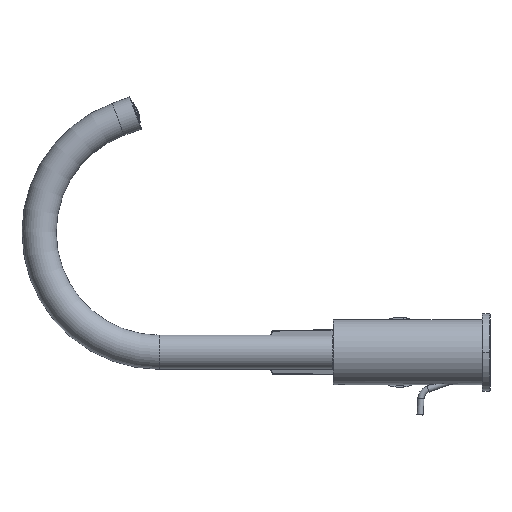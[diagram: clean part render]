
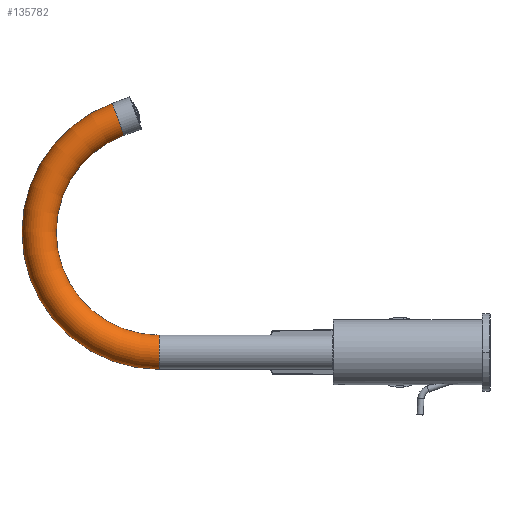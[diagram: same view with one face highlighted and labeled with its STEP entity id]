
A CAD part, left-side view. The second image highlights one B-rep face of the part: STEP entity #135782.
In plain terms, the highlighted toroidal (fillet/blend) face has major radius 77.278 mm and minor radius 11 mm.
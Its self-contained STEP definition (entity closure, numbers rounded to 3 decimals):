
#47873=CARTESIAN_POINT('',(0.,234.276,149.896));
#47874=DIRECTION('',(0.,-0.94,0.342));
#47875=DIRECTION('',(0.,0.342,0.94));
#47876=AXIS2_PLACEMENT_3D('',#47873,#47874,#47875);
#47901=CARTESIAN_POINT('',(0.,207.846,77.278));
#47902=DIRECTION('',(1.,0.,0.));
#47903=DIRECTION('',(0.,0.,-1.));
#47904=AXIS2_PLACEMENT_3D('',#47901,#47902,#47903);
#73612=CARTESIAN_POINT('',(0.,207.846,0.));
#73613=DIRECTION('',(0.,1.,0.));
#73614=DIRECTION('',(0.,0.,-1.));
#73615=AXIS2_PLACEMENT_3D('',#73612,#73613,#73614);
#73617=CARTESIAN_POINT('',(0.,207.846,77.278));
#73618=DIRECTION('',(1.,0.,0.));
#73619=DIRECTION('',(0.,0.,-1.));
#73620=AXIS2_PLACEMENT_3D('',#73617,#73618,#73619);
#94727=CARTESIAN_POINT('',(0.,207.846,-11.));
#94728=CARTESIAN_POINT('',(0.,207.846,11.));
#94729=VERTEX_POINT('',#94727);
#94730=VERTEX_POINT('',#94728);
#94735=CARTESIAN_POINT('',(0.,238.039,160.232));
#94736=CARTESIAN_POINT('',(0.,230.514,139.559));
#94737=VERTEX_POINT('',#94735);
#94738=VERTEX_POINT('',#94736);
#135771=CARTESIAN_POINT('',(0.,207.846,77.278));
#135772=DIRECTION('',(1.,0.,0.));
#135773=DIRECTION('',(0.,0.,1.));
#135774=AXIS2_PLACEMENT_3D('',#135771,#135772,#135773);
#135775=TOROIDAL_SURFACE('',#135774,77.278,11.);
#135776=ORIENTED_EDGE('',*,*,#135765,.F.);
#135777=ORIENTED_EDGE('',*,*,#105949,.T.);
#135778=ORIENTED_EDGE('',*,*,#105919,.T.);
#135779=ORIENTED_EDGE('',*,*,#105946,.F.);
#135780=EDGE_LOOP('',(#135776,#135777,#135778,#135779));
#135781=FACE_OUTER_BOUND('',#135780,.F.);
#135782=ADVANCED_FACE('',(#135781),#135775,.T.);
#47877=CIRCLE('',#47876,11.);
#47905=CIRCLE('',#47904,66.278);
#73616=CIRCLE('',#73615,11.);
#73621=CIRCLE('',#73620,88.278);
#105919=EDGE_CURVE('',#94737,#94738,#47877,.T.);
#105946=EDGE_CURVE('',#94730,#94738,#47905,.T.);
#105949=EDGE_CURVE('',#94729,#94737,#73621,.T.);
#135765=EDGE_CURVE('',#94729,#94730,#73616,.T.);
